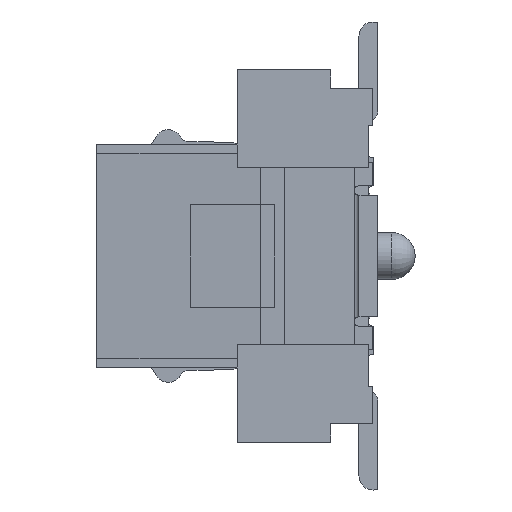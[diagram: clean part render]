
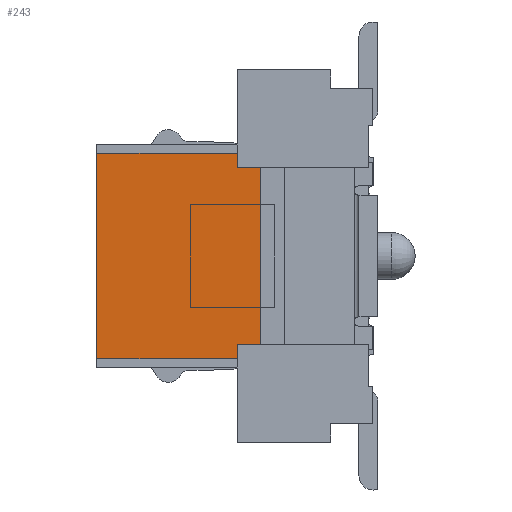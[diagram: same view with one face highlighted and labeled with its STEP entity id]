
A CAD part, left-side view. The second image highlights one B-rep face of the part: STEP entity #243.
In plain terms, the highlighted planar face has unit normal (-0.999, 0.052, 0).
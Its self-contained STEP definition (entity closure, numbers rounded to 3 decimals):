
#243 = ADVANCED_FACE ( 'NONE', ( #4759 ), #28180, .T. ) ;
#637 = DIRECTION ( 'NONE',  ( -0.052, -0.999, 0. ) ) ;
#867 = VERTEX_POINT ( 'NONE', #2169 ) ;
#923 = VERTEX_POINT ( 'NONE', #10943 ) ;
#1304 = VECTOR ( 'NONE', #27613, 1000. ) ;
#1497 = VECTOR ( 'NONE', #7075, 1000. ) ;
#2169 = CARTESIAN_POINT ( 'NONE',  ( -5.658, 2.9, -1.1 ) ) ;
#2219 = LINE ( 'NONE', #5177, #1304 ) ;
#2307 = EDGE_CURVE ( 'NONE', #18456, #3981, #24912, .T. ) ;
#2412 = VECTOR ( 'NONE', #34808, 1000. ) ;
#2479 = CARTESIAN_POINT ( 'NONE',  ( -5.737, 1.4, 1.1 ) ) ;
#3241 = CARTESIAN_POINT ( 'NONE',  ( -5.737, 1.4, 0.95 ) ) ;
#3981 = VERTEX_POINT ( 'NONE', #25005 ) ;
#4759 = FACE_OUTER_BOUND ( 'NONE', #21456, .T. ) ;
#5177 = CARTESIAN_POINT ( 'NONE',  ( -5.737, 1.4, 1.99 ) ) ;
#5742 = VECTOR ( 'NONE', #29813, 1000. ) ;
#6475 = CARTESIAN_POINT ( 'NONE',  ( -5.737, 1.4, -1.99 ) ) ;
#6741 = EDGE_CURVE ( 'NONE', #12463, #25582, #16542, .T. ) ;
#7075 = DIRECTION ( 'NONE',  ( 0.052, 0.999, 0. ) ) ;
#8012 = VECTOR ( 'NONE', #12486, 1000. ) ;
#8663 = AXIS2_PLACEMENT_3D ( 'NONE', #11335, #16879, #14046 ) ;
#8902 = LINE ( 'NONE', #26516, #8012 ) ;
#9466 = CARTESIAN_POINT ( 'NONE',  ( -5.658, 2.9, 0.95 ) ) ;
#10493 = ORIENTED_EDGE ( 'NONE', *, *, #13352, .F. ) ;
#10943 = CARTESIAN_POINT ( 'NONE',  ( -5.737, 1.4, -1.1 ) ) ;
#11302 = VECTOR ( 'NONE', #637, 1000. ) ;
#11335 = CARTESIAN_POINT ( 'NONE',  ( -5.658, 2.9, -1.19 ) ) ;
#12236 = VERTEX_POINT ( 'NONE', #31642 ) ;
#12368 = ORIENTED_EDGE ( 'NONE', *, *, #31869, .F. ) ;
#12463 = VERTEX_POINT ( 'NONE', #21286 ) ;
#12486 = DIRECTION ( 'NONE',  ( 0., 0., 1. ) ) ;
#12846 = LINE ( 'NONE', #6475, #26938 ) ;
#13352 = EDGE_CURVE ( 'NONE', #867, #12236, #8902, .T. ) ;
#14046 = DIRECTION ( 'NONE',  ( -0.052, -0.999, 0. ) ) ;
#14132 = CARTESIAN_POINT ( 'NONE',  ( -5.75, 1.15, -1.1 ) ) ;
#14735 = CARTESIAN_POINT ( 'NONE',  ( -5.658, 2.9, 1.1 ) ) ;
#16542 = LINE ( 'NONE', #35117, #1497 ) ;
#16879 = DIRECTION ( 'NONE',  ( -0.999, 0.052, 0. ) ) ;
#16965 = DIRECTION ( 'NONE',  ( 0., 0., -1. ) ) ;
#18456 = VERTEX_POINT ( 'NONE', #3241 ) ;
#21286 = CARTESIAN_POINT ( 'NONE',  ( -5.75, 1.15, -0.95 ) ) ;
#21456 = EDGE_LOOP ( 'NONE', ( #33560, #33236, #31875, #27982, #33049, #10493, #29939, #12368 ) ) ;
#22484 = LINE ( 'NONE', #26990, #5742 ) ;
#23117 = LINE ( 'NONE', #14132, #29722 ) ;
#23734 = EDGE_CURVE ( 'NONE', #12236, #24114, #35478, .T. ) ;
#24114 = VERTEX_POINT ( 'NONE', #2479 ) ;
#24912 = LINE ( 'NONE', #9466, #2412 ) ;
#25005 = CARTESIAN_POINT ( 'NONE',  ( -5.75, 1.15, 0.95 ) ) ;
#25582 = VERTEX_POINT ( 'NONE', #28426 ) ;
#26197 = DIRECTION ( 'NONE',  ( 0., 0., -1. ) ) ;
#26516 = CARTESIAN_POINT ( 'NONE',  ( -5.658, 2.9, 1.1 ) ) ;
#26657 = EDGE_CURVE ( 'NONE', #24114, #18456, #2219, .T. ) ;
#26938 = VECTOR ( 'NONE', #26197, 1000. ) ;
#26990 = CARTESIAN_POINT ( 'NONE',  ( -5.658, 2.9, -1.1 ) ) ;
#27613 = DIRECTION ( 'NONE',  ( 0., 0., -1. ) ) ;
#27982 = ORIENTED_EDGE ( 'NONE', *, *, #26657, .F. ) ;
#28180 = PLANE ( 'NONE',  #8663 ) ;
#28426 = CARTESIAN_POINT ( 'NONE',  ( -5.737, 1.4, -0.95 ) ) ;
#29361 = EDGE_CURVE ( 'NONE', #3981, #12463, #23117, .T. ) ;
#29722 = VECTOR ( 'NONE', #16965, 1000. ) ;
#29813 = DIRECTION ( 'NONE',  ( 0.052, 0.999, 0. ) ) ;
#29939 = ORIENTED_EDGE ( 'NONE', *, *, #32519, .F. ) ;
#31642 = CARTESIAN_POINT ( 'NONE',  ( -5.658, 2.9, 1.1 ) ) ;
#31869 = EDGE_CURVE ( 'NONE', #25582, #923, #12846, .T. ) ;
#31875 = ORIENTED_EDGE ( 'NONE', *, *, #2307, .F. ) ;
#32519 = EDGE_CURVE ( 'NONE', #923, #867, #22484, .T. ) ;
#33049 = ORIENTED_EDGE ( 'NONE', *, *, #23734, .F. ) ;
#33236 = ORIENTED_EDGE ( 'NONE', *, *, #29361, .F. ) ;
#33560 = ORIENTED_EDGE ( 'NONE', *, *, #6741, .F. ) ;
#34808 = DIRECTION ( 'NONE',  ( -0.052, -0.999, 0. ) ) ;
#35117 = CARTESIAN_POINT ( 'NONE',  ( -5.813, -0.047, -0.95 ) ) ;
#35478 = LINE ( 'NONE', #14735, #11302 ) ;
